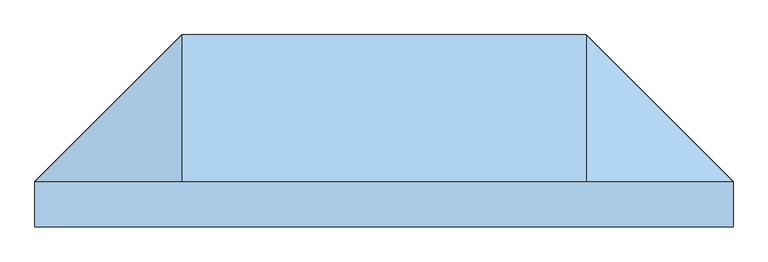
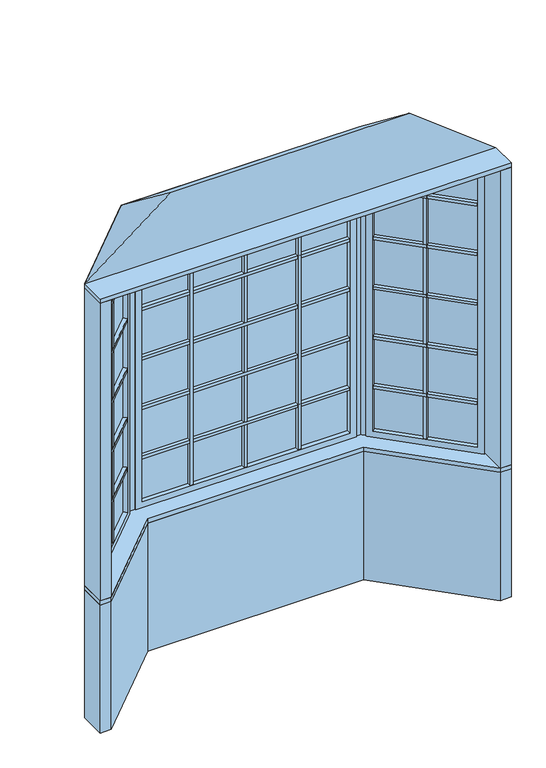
"""IFC4 building model written with IfcOpenShell, lengths in millimetres: window geometry, Pollard_Windows_Tudor Casement Bows and Bays : AML-BAY 45 AFR0618-12-600_GC."""

import ifcopenshell
import ifcopenshell.guid

model = None  # the IFC model being written
_history = None  # IfcOwnerHistory: only IFC2X3 demands one
_inside = {}  # id of a spatial element -> (the spatial element, [elements in it])
_under = {}  # id of a project, library or spatial element -> (it, [spatial elements below it])
_declared = {}  # id of a project -> (the project, [libraries it declares])
_typed = {}  # id of a type object -> (the type object, [elements of that type])
_made_of = {}  # id of a material, layer set ... -> (it, [elements and type objects made of it])


def new_model(schema):
    """Start an empty IFC model of exactly this schema.

    Asked for "IFC4X3", IfcOpenShell would pick the latest addendum, in which some entities
    have other attributes; the version numbers below select the first issue.
    IFC2X3 requires an IfcOwnerHistory on every rooted entity: one is made here for all.
    """
    global model, _history
    if schema == "IFC4X3":
        model = ifcopenshell.file(schema_version=(4, 3, 0, 0))
    else:
        model = ifcopenshell.file(schema=schema)
    _inside.clear()
    _under.clear()
    _declared.clear()
    _typed.clear()
    _made_of.clear()
    _history = None
    if model.schema == "IFC2X3":
        org = make("IfcOrganization", Name="unknown")
        user = make(
            "IfcPersonAndOrganization",
            ThePerson=make("IfcPerson", FamilyName="unknown"),
            TheOrganization=org,
        )
        app = make(
            "IfcApplication",
            ApplicationDeveloper=org,
            Version="unknown",
            ApplicationFullName="unknown",
            ApplicationIdentifier="unknown",
        )
        _history = make(
            "IfcOwnerHistory",
            OwningUser=user,
            OwningApplication=app,
            ChangeAction="ADDED",
            CreationDate=0,
        )
    return model


def make(cls, **values):
    """One entity of the class cls with the attributes given. An attribute that is None is left unset."""
    return model.create_entity(
        cls, **{name: value for name, value in values.items() if value is not None}
    )


def rooted(cls, **values):
    """An entity with a GlobalId (a new one), such as an element, a storey or a relation."""
    return make(cls, GlobalId=ifcopenshell.guid.new(), OwnerHistory=_history, **values)


def si_unit(unit_type, name, prefix=None):
    """IfcSIUnit, for example si_unit("LENGTHUNIT", "METRE", prefix="MILLI")."""
    return make("IfcSIUnit", UnitType=unit_type, Prefix=prefix, Name=name)


def assignment(units):
    """IfcUnitAssignment: the units of a project."""
    return None if units is None else make("IfcUnitAssignment", Units=units)


def point(xyz):
    """IfcCartesianPoint."""
    return None if xyz is None else make("IfcCartesianPoint", Coordinates=xyz)


def direction(xyz):
    """IfcDirection."""
    return None if xyz is None else make("IfcDirection", DirectionRatios=xyz)


def frame(location, z_axis=None, x_axis=None):
    """IfcAxis2Placement3D, a coordinate frame: its origin and axes. An axis left out is left unset."""
    return make(
        "IfcAxis2Placement3D",
        Location=point(location),
        Axis=direction(z_axis),
        RefDirection=direction(x_axis),
    )


def origin():
    """The frame at (0, 0, 0) with its axes left unset."""
    return frame((0.0, 0.0, 0.0))


def origin_with_axes():
    """The frame at (0, 0, 0) with the z axis (0, 0, 1) and the x axis (1, 0, 0) written out."""
    return frame((0.0, 0.0, 0.0), z_axis=(0.0, 0.0, 1.0), x_axis=(1.0, 0.0, 0.0))


def place(relative_to, where):
    """IfcLocalPlacement: puts the frame where relative to a parent placement (None: the world)."""
    return make(
        "IfcLocalPlacement", PlacementRelTo=relative_to, RelativePlacement=where
    )


def context(
    kind, dimensions, precision=None, world=None, true_north=None, identifier=None
):
    """IfcGeometricRepresentationContext, for example the 3D "Model" context."""
    return make(
        "IfcGeometricRepresentationContext",
        ContextIdentifier=identifier,
        ContextType=kind,
        CoordinateSpaceDimension=dimensions,
        Precision=precision,
        WorldCoordinateSystem=world,
        TrueNorth=true_north,
    )


def project(units=None, contexts=None):
    """IfcProject with its units and contexts."""
    return rooted(
        "IfcProject",
        Name="project",
        RepresentationContexts=contexts,
        UnitsInContext=assignment(units),
    )


def spatial(cls, under=None, at=None, **own):
    """A site, building, storey or space (cls), placed at a placement, below another one or the project."""
    s = rooted(cls, ObjectPlacement=at, **own)
    if under is not None:
        _under.setdefault(under.id(), (under, []))[1].append(s)
    return s


def polyline(points):
    """IfcPolyline through the points."""
    return make("IfcPolyline", Points=[point(p) for p in points])


def outline(outer, holes=None, kind="AREA"):
    """IfcArbitraryClosedProfileDef: a profile drawn as a closed curve; with holes, ...WithVoids."""
    if holes is None:
        return make("IfcArbitraryClosedProfileDef", ProfileType=kind, OuterCurve=outer)
    return make(
        "IfcArbitraryProfileDefWithVoids",
        ProfileType=kind,
        OuterCurve=outer,
        InnerCurves=holes,
    )


def extrude(swept, where, along, depth):
    """IfcExtrudedAreaSolid: the profile swept, set in the frame where, extruded along a direction by depth."""
    return make(
        "IfcExtrudedAreaSolid",
        SweptArea=swept,
        Position=where,
        ExtrudedDirection=direction(along),
        Depth=depth,
    )


def faces_of(points, faces, orient=None, outer=None):
    """IfcFace entities. A face is a list of loops; a loop is a list of indices into points, from 0.

    orient and outer hold one flag for each loop. By default every Orientation is true, the
    first loop of a face is its IfcFaceOuterBound and the others are IfcFaceBound.
    """
    made = []
    for i, loops in enumerate(faces):
        bounds = []
        for j, loop in enumerate(loops):
            is_outer = j == 0 if outer is None else outer[i][j]
            bounds.append(
                make(
                    "IfcFaceOuterBound" if is_outer else "IfcFaceBound",
                    Bound=make("IfcPolyLoop", Polygon=[points[k] for k in loop]),
                    Orientation=True if orient is None else orient[i][j],
                )
            )
        made.append(make("IfcFace", Bounds=bounds))
    return made


def faceted_brep(points, faces, orient=None, outer=None, voids=None):
    """IfcFacetedBrep: a solid bounded by flat faces; with voids (closed shells), ...WithVoids."""
    shared = [point(p) for p in points]
    hull = make("IfcClosedShell", CfsFaces=faces_of(shared, faces, orient, outer))
    if voids is None:
        return make("IfcFacetedBrep", Outer=hull)
    return make(
        "IfcFacetedBrepWithVoids",
        Outer=hull,
        Voids=[
            make(cls, CfsFaces=faces_of(shared, fs, o, b)) for cls, fs, o, b in voids
        ],
    )


def shape(context_of_items, identifier, shape_type, items):
    """IfcShapeRepresentation: the items that make up one representation, for example the "Body"."""
    return make(
        "IfcShapeRepresentation",
        ContextOfItems=context_of_items,
        RepresentationIdentifier=identifier,
        RepresentationType=shape_type,
        Items=items,
    )


def source(mapping_origin, context_of_items, identifier, shape_type, items):
    """IfcRepresentationMap: a shape defined once, which mapped items show again and again."""
    return make(
        "IfcRepresentationMap",
        MappingOrigin=mapping_origin,
        MappedRepresentation=shape(context_of_items, identifier, shape_type, items),
    )


def transform(
    local_origin,
    x_axis=None,
    y_axis=None,
    z_axis=None,
    scale=None,
    scale2=None,
    scale3=None,
    uniform=True,
):
    """IfcCartesianTransformationOperator3D, or its non-uniform kind. x_axis, y_axis, z_axis: its Axis1, 2, 3."""
    if uniform:
        return make(
            "IfcCartesianTransformationOperator3D",
            Axis1=direction(x_axis),
            Axis2=direction(y_axis),
            LocalOrigin=point(local_origin),
            Scale=scale,
            Axis3=direction(z_axis),
        )
    return make(
        "IfcCartesianTransformationOperator3DnonUniform",
        Axis1=direction(x_axis),
        Axis2=direction(y_axis),
        LocalOrigin=point(local_origin),
        Scale=scale,
        Axis3=direction(z_axis),
        Scale2=scale2,
        Scale3=scale3,
    )


def mapped(mapping_source, mapping_target):
    """IfcMappedItem: shows the shape of a source again, moved by a transform."""
    return make(
        "IfcMappedItem", MappingSource=mapping_source, MappingTarget=mapping_target
    )


def made_of(thing, what):
    """Note that an element or type object is made of a material, layer set ...; save() writes the relation."""
    if what is not None:
        _made_of.setdefault(what.id(), (what, []))[1].append(thing)
    return thing


def element(
    cls,
    number,
    at=None,
    inside=None,
    cuts=None,
    type_object=None,
    material=None,
    context=None,
    identifier="Body",
    shape_type=None,
    held_by="IfcProductDefinitionShape",
    body=None,
    shapes=None,
    **own,
):
    """One element of the class cls, such as IfcWall. Its Tag is "e" and its number.

    at: its placement. inside: the storey or other place that contains it. cuts: it is an
    opening in that element (IfcRelVoidsElement). A single representation is given by context,
    identifier, shape_type and body (its items); several are given by shapes. held_by: the class
    of the entity that holds the representations. save() writes the other relations.
    """
    e = rooted(cls, Tag="e%d" % number, ObjectPlacement=at, **own)
    if body is not None:
        shapes = [shape(context, identifier, shape_type, body)]
    if shapes is not None:
        e.Representation = make(held_by, Representations=shapes)
    if inside is not None:
        _inside.setdefault(inside.id(), (inside, []))[1].append(e)
    if cuts is not None:
        rooted(
            "IfcRelVoidsElement", RelatingBuildingElement=cuts, RelatedOpeningElement=e
        )
    if type_object is not None:
        _typed.setdefault(type_object.id(), (type_object, []))[1].append(e)
    return made_of(e, material)


def aggregate(whole, parts):
    """IfcRelAggregates: a whole, such as a stair, and the parts it consists of."""
    return rooted("IfcRelAggregates", RelatingObject=whole, RelatedObjects=parts)


def save(model, path):
    """Write the relations noted so far, then the file.

    IfcRelAggregates (storeys below a building ...), IfcRelContainedInSpatialStructure (elements
    in a storey), IfcRelDefinesByType, IfcRelAssociatesMaterial and IfcRelDeclares: one each for
    every whole, place, type object, material and project.
    """
    for whole, parts in _under.values():
        aggregate(whole, parts)
    for where, things in _inside.values():
        rooted(
            "IfcRelContainedInSpatialStructure",
            RelatedElements=things,
            RelatingStructure=where,
        )
    for kind, things in _typed.values():
        rooted("IfcRelDefinesByType", RelatedObjects=things, RelatingType=kind)
    for what, things in _made_of.values():
        rooted("IfcRelAssociatesMaterial", RelatedObjects=things, RelatingMaterial=what)
    for by, libraries in _declared.values():
        rooted("IfcRelDeclares", RelatingContext=by, RelatedDefinitions=libraries)
    model.write(path)


def window_76903604(model_context):
    return source(origin(), model_context, "Body", "SolidModel", [
        extrude(outline(polyline([(739.5114193, 506.9608753), (1117.1725202, 129.2997743), (1101.616171, 113.7434252), (723.9550701, 491.4045261), (739.5114193, 506.9608753)])), frame((0.0, 0.0, 1690.998), z_axis=(0.0, 0.0, 1.0), x_axis=(1.0, 0.0, 0.0)), (0.0, 0.0, 1.0), 18.0),
        extrude(outline(polyline([(720.3629677, 487.8124236), (1098.0240686, 110.1513227), (1082.4677194, 94.5949735), (704.8066185, 472.2560744), (720.3629677, 487.8124236)])), frame((0.0, 0.0, 1690.998), z_axis=(0.0, 0.0, 1.0), x_axis=(1.0, 0.0, 0.0)), (0.0, 0.0, 1.0), 18.0),
        extrude(outline(polyline([(739.5114193, 506.9608753), (1117.1725202, 129.2997743), (1101.616171, 113.7434252), (723.9550701, 491.4045261), (739.5114193, 506.9608753)])), frame((0.0, 0.0, 1090.998), z_axis=(0.0, 0.0, 1.0), x_axis=(1.0, 0.0, 0.0)), (0.0, 0.0, 1.0), 18.0),
        extrude(outline(polyline([(720.3629677, 487.8124236), (1098.0240686, 110.1513227), (1082.4677194, 94.5949735), (704.8066185, 472.2560744), (720.3629677, 487.8124236)])), frame((0.0, 0.0, 1090.998), z_axis=(0.0, 0.0, 1.0), x_axis=(1.0, 0.0, 0.0)), (0.0, 0.0, 1.0), 18.0),
        extrude(outline(polyline([(739.5114193, 506.9608753), (1117.1725202, 129.2997743), (1101.616171, 113.7434252), (723.9550701, 491.4045261), (739.5114193, 506.9608753)])), frame((0.0, 0.0, 1390.998), z_axis=(0.0, 0.0, 1.0), x_axis=(1.0, 0.0, 0.0)), (0.0, 0.0, 1.0), 18.0),
        extrude(outline(polyline([(720.3629677, 487.8124236), (1098.0240686, 110.1513227), (1082.4677194, 94.5949735), (704.8066185, 472.2560744), (720.3629677, 487.8124236)])), frame((0.0, 0.0, 1390.998), z_axis=(0.0, 0.0, 1.0), x_axis=(1.0, 0.0, 0.0)), (0.0, 0.0, 1.0), 18.0),
        extrude(outline(polyline([(739.5114193, 506.9608753), (1117.1725202, 129.2997743), (1101.616171, 113.7434252), (723.9550701, 491.4045261), (739.5114193, 506.9608753)])), frame((0.0, 0.0, 1990.998), z_axis=(0.0, 0.0, 1.0), x_axis=(1.0, 0.0, 0.0)), (0.0, 0.0, 1.0), 18.0),
        extrude(outline(polyline([(720.3629677, 487.8124236), (1098.0240686, 110.1513227), (1082.4677194, 94.5949735), (704.8066185, 472.2560744), (720.3629677, 487.8124236)])), frame((0.0, 0.0, 1990.998), z_axis=(0.0, 0.0, 1.0), x_axis=(1.0, 0.0, 0.0)), (0.0, 0.0, 1.0), 18.0),
        extrude(outline(polyline([(739.5114193, 506.9608753), (1117.1725202, 129.2997743), (1101.616171, 113.7434252), (723.9550701, 491.4045261), (739.5114193, 506.9608753)])), frame((0.0, 0.0, 2290.998), z_axis=(0.0, 0.0, 1.0), x_axis=(1.0, 0.0, 0.0)), (0.0, 0.0, 1.0), 18.0),
        extrude(outline(polyline([(720.3629677, 487.8124236), (1098.0240686, 110.1513227), (1082.4677194, 94.5949735), (704.8066185, 472.2560744), (720.3629677, 487.8124236)])), frame((0.0, 0.0, 2290.998), z_axis=(0.0, 0.0, 1.0), x_axis=(1.0, 0.0, 0.0)), (0.0, 0.0, 1.0), 18.0),
        extrude(outline(polyline([(919.1495816, 296.2100146), (906.4216595, 308.9379366), (921.9780087, 324.4942858), (934.7059308, 311.7663638), (919.1495816, 296.2100146)])), frame((0.0, 0.0, 835.8628), z_axis=(0.0, 0.0, 1.0), x_axis=(1.0, 0.0, 0.0)), (0.0, 0.0, 1.0), 1728.2704),
        extrude(outline(polyline([(915.5574791, 292.6179121), (900.00113, 277.0615629), (887.2732079, 289.789485), (902.8295571, 305.3458342), (915.5574791, 292.6179121)])), frame((0.0, 0.0, 835.8628), z_axis=(0.0, 0.0, 1.0), x_axis=(1.0, 0.0, 0.0)), (0.0, 0.0, 1.0), 1728.2704),
        extrude(outline(polyline([(1110.5964271, 104.763169), (1107.0043247, 101.1710666), (711.3827115, 496.7926797), (714.974814, 500.3847822), (1110.5964271, 104.763169)])), frame((0.0, 0.0, 823.1628), z_axis=(0.0, 0.0, 1.0), x_axis=(1.0, 0.0, 0.0)), (0.0, 0.0, 1.0), 1753.6704),
        faceted_brep([(1101.616171, 113.7434252, 835.8628), (1101.616171, 113.7434252, 2564.1332), (1119.5766833, 131.7039374, 2564.1332), (1119.5766833, 131.7039374, 835.8628), (1107.0043247, 101.1710666, 823.1628), (1107.0043247, 101.1710666, 2576.8332), (1110.5964271, 104.763169, 2576.8332), (1110.5964271, 104.763169, 823.1628), (1080.0635563, 92.1908105, 835.8628), (1080.0635563, 92.1908105, 2564.1332), (1098.0240686, 110.1513227, 2564.1332), (1098.0240686, 110.1513227, 835.8628), (1144.9369265, 106.3436941, 799.998), (1144.9369265, 106.3436941, 2599.998), (1105.4237996, 66.8305672, 2599.998), (1105.4237996, 66.8305672, 799.998), (723.9550701, 491.4045261, 2564.1332), (741.9155823, 509.3650383, 2564.1332), (711.3827115, 496.7926797, 2576.8332), (714.974814, 500.3847822, 2576.8332), (702.4024554, 469.8519114, 2564.1332), (720.3629677, 487.8124236, 2564.1332), (716.5553391, 534.7252816, 2599.998), (677.0422121, 495.2121547, 2599.998), (723.9550701, 491.4045261, 835.8628), (741.9155823, 509.3650383, 835.8628), (711.3827115, 496.7926797, 823.1628), (714.974814, 500.3847822, 823.1628), (702.4024554, 469.8519114, 835.8628), (720.3629677, 487.8124236, 835.8628), (716.5553391, 534.7252816, 799.998), (677.0422121, 495.2121547, 799.998)], [[[0, 1, 2, 3]], [[4, 5, 6, 7]], [[8, 9, 10, 11]], [[12, 13, 14, 15]], [[1, 16, 17, 2]], [[5, 18, 19, 6]], [[9, 20, 21, 10]], [[13, 22, 23, 14]], [[16, 24, 25, 17]], [[18, 26, 27, 19]], [[20, 28, 29, 21]], [[22, 30, 31, 23]], [[24, 0, 3, 25]], [[7, 6, 19, 27], [1, 0, 24, 16]], [[26, 4, 7, 27]], [[5, 4, 26, 18], [11, 10, 21, 29]], [[28, 8, 11, 29]], [[15, 14, 23, 31], [9, 8, 28, 20]], [[30, 12, 15, 31]], [[13, 12, 30, 22], [3, 2, 17, 25]]]),
        extrude(outline(polyline([(317.5177, 544.6806207), (299.5177, 544.6806207), (299.5177, 566.6806207), (317.5177, 566.6806207), (317.5177, 544.6806207)])), frame((0.0, 0.0, 835.8628), z_axis=(0.0, 0.0, 1.0), x_axis=(1.0, 0.0, 0.0)), (0.0, 0.0, 1.0), 1728.2704),
        extrude(outline(polyline([(317.5177, 539.6006207), (317.5177, 517.6006207), (299.5177, 517.6006207), (299.5177, 539.6006207), (317.5177, 539.6006207)])), frame((0.0, 0.0, 835.8628), z_axis=(0.0, 0.0, 1.0), x_axis=(1.0, 0.0, 0.0)), (0.0, 0.0, 1.0), 1728.2704),
        extrude(outline(polyline([(-299.5177, 544.6806207), (-317.5177, 544.6806207), (-317.5177, 566.6806207), (-299.5177, 566.6806207), (-299.5177, 544.6806207)])), frame((0.0, 0.0, 835.8628), z_axis=(0.0, 0.0, 1.0), x_axis=(1.0, 0.0, 0.0)), (0.0, 0.0, 1.0), 1728.2704),
        extrude(outline(polyline([(-299.5177, 539.6006207), (-299.5177, 517.6006207), (-317.5177, 517.6006207), (-317.5177, 539.6006207), (-299.5177, 539.6006207)])), frame((0.0, 0.0, 835.8628), z_axis=(0.0, 0.0, 1.0), x_axis=(1.0, 0.0, 0.0)), (0.0, 0.0, 1.0), 1728.2704),
        extrude(outline(polyline([(-595.3352, 566.6806207), (595.3352, 566.6806207), (595.3352, 544.6806207), (-595.3352, 544.6806207), (-595.3352, 566.6806207)])), frame((0.0, 0.0, 1090.998), z_axis=(0.0, 0.0, 1.0), x_axis=(1.0, 0.0, 0.0)), (0.0, 0.0, 1.0), 18.0),
        extrude(outline(polyline([(-595.3352, 539.6006207), (595.3352, 539.6006207), (595.3352, 517.6006207), (-595.3352, 517.6006207), (-595.3352, 539.6006207)])), frame((0.0, 0.0, 1090.998), z_axis=(0.0, 0.0, 1.0), x_axis=(1.0, 0.0, 0.0)), (0.0, 0.0, 1.0), 18.0),
        extrude(outline(polyline([(-595.3352, 566.6806207), (595.3352, 566.6806207), (595.3352, 544.6806207), (-595.3352, 544.6806207), (-595.3352, 566.6806207)])), frame((0.0, 0.0, 1390.998), z_axis=(0.0, 0.0, 1.0), x_axis=(1.0, 0.0, 0.0)), (0.0, 0.0, 1.0), 18.0),
        extrude(outline(polyline([(-595.3352, 539.6006207), (595.3352, 539.6006207), (595.3352, 517.6006207), (-595.3352, 517.6006207), (-595.3352, 539.6006207)])), frame((0.0, 0.0, 1390.998), z_axis=(0.0, 0.0, 1.0), x_axis=(1.0, 0.0, 0.0)), (0.0, 0.0, 1.0), 18.0),
        extrude(outline(polyline([(-595.3352, 566.6806207), (595.3352, 566.6806207), (595.3352, 544.6806207), (-595.3352, 544.6806207), (-595.3352, 566.6806207)])), frame((0.0, 0.0, 1690.998), z_axis=(0.0, 0.0, 1.0), x_axis=(1.0, 0.0, 0.0)), (0.0, 0.0, 1.0), 18.0),
        extrude(outline(polyline([(-595.3352, 539.6006207), (595.3352, 539.6006207), (595.3352, 517.6006207), (-595.3352, 517.6006207), (-595.3352, 539.6006207)])), frame((0.0, 0.0, 1690.998), z_axis=(0.0, 0.0, 1.0), x_axis=(1.0, 0.0, 0.0)), (0.0, 0.0, 1.0), 18.0),
        extrude(outline(polyline([(-595.3352, 566.6806207), (595.3352, 566.6806207), (595.3352, 544.6806207), (-595.3352, 544.6806207), (-595.3352, 566.6806207)])), frame((0.0, 0.0, 1990.998), z_axis=(0.0, 0.0, 1.0), x_axis=(1.0, 0.0, 0.0)), (0.0, 0.0, 1.0), 18.0),
        extrude(outline(polyline([(-595.3352, 539.6006207), (595.3352, 539.6006207), (595.3352, 517.6006207), (-595.3352, 517.6006207), (-595.3352, 539.6006207)])), frame((0.0, 0.0, 1990.998), z_axis=(0.0, 0.0, 1.0), x_axis=(1.0, 0.0, 0.0)), (0.0, 0.0, 1.0), 18.0),
        extrude(outline(polyline([(-1117.1725202, 129.2997743), (-739.5114193, 506.9608753), (-723.9550701, 491.4045261), (-1101.616171, 113.7434252), (-1117.1725202, 129.2997743)])), frame((0.0, 0.0, 1090.998), z_axis=(0.0, 0.0, 1.0), x_axis=(1.0, 0.0, 0.0)), (0.0, 0.0, 1.0), 18.0),
        extrude(outline(polyline([(-1098.0240686, 110.1513227), (-720.3629677, 487.8124236), (-704.8066185, 472.2560744), (-1082.4677194, 94.5949735), (-1098.0240686, 110.1513227)])), frame((0.0, 0.0, 1090.998), z_axis=(0.0, 0.0, 1.0), x_axis=(1.0, 0.0, 0.0)), (0.0, 0.0, 1.0), 18.0),
        extrude(outline(polyline([(-1117.1725202, 129.2997743), (-739.5114193, 506.9608753), (-723.9550701, 491.4045261), (-1101.616171, 113.7434252), (-1117.1725202, 129.2997743)])), frame((0.0, 0.0, 1390.998), z_axis=(0.0, 0.0, 1.0), x_axis=(1.0, 0.0, 0.0)), (0.0, 0.0, 1.0), 18.0),
        extrude(outline(polyline([(-1098.0240686, 110.1513227), (-720.3629677, 487.8124236), (-704.8066185, 472.2560744), (-1082.4677194, 94.5949735), (-1098.0240686, 110.1513227)])), frame((0.0, 0.0, 1390.998), z_axis=(0.0, 0.0, 1.0), x_axis=(1.0, 0.0, 0.0)), (0.0, 0.0, 1.0), 18.0),
        extrude(outline(polyline([(-1117.1725202, 129.2997743), (-739.5114193, 506.9608753), (-723.9550701, 491.4045261), (-1101.616171, 113.7434252), (-1117.1725202, 129.2997743)])), frame((0.0, 0.0, 1690.998), z_axis=(0.0, 0.0, 1.0), x_axis=(1.0, 0.0, 0.0)), (0.0, 0.0, 1.0), 18.0),
        extrude(outline(polyline([(-1098.0240686, 110.1513227), (-720.3629677, 487.8124236), (-704.8066185, 472.2560744), (-1082.4677194, 94.5949735), (-1098.0240686, 110.1513227)])), frame((0.0, 0.0, 1690.998), z_axis=(0.0, 0.0, 1.0), x_axis=(1.0, 0.0, 0.0)), (0.0, 0.0, 1.0), 18.0),
        extrude(outline(polyline([(-1117.1725202, 129.2997743), (-739.5114193, 506.9608753), (-723.9550701, 491.4045261), (-1101.616171, 113.7434252), (-1117.1725202, 129.2997743)])), frame((0.0, 0.0, 1990.998), z_axis=(0.0, 0.0, 1.0), x_axis=(1.0, 0.0, 0.0)), (0.0, 0.0, 1.0), 18.0),
        extrude(outline(polyline([(-1098.0240686, 110.1513227), (-720.3629677, 487.8124236), (-704.8066185, 472.2560744), (-1082.4677194, 94.5949735), (-1098.0240686, 110.1513227)])), frame((0.0, 0.0, 1990.998), z_axis=(0.0, 0.0, 1.0), x_axis=(1.0, 0.0, 0.0)), (0.0, 0.0, 1.0), 18.0),
        extrude(outline(polyline([(-1117.1725202, 129.2997743), (-739.5114193, 506.9608753), (-723.9550701, 491.4045261), (-1101.616171, 113.7434252), (-1117.1725202, 129.2997743)])), frame((0.0, 0.0, 2290.998), z_axis=(0.0, 0.0, 1.0), x_axis=(1.0, 0.0, 0.0)), (0.0, 0.0, 1.0), 18.0),
        extrude(outline(polyline([(-1098.0240686, 110.1513227), (-720.3629677, 487.8124236), (-704.8066185, 472.2560744), (-1082.4677194, 94.5949735), (-1098.0240686, 110.1513227)])), frame((0.0, 0.0, 2290.998), z_axis=(0.0, 0.0, 1.0), x_axis=(1.0, 0.0, 0.0)), (0.0, 0.0, 1.0), 18.0),
        extrude(outline(polyline([(-595.3352, 566.6806207), (595.3352, 566.6806207), (595.3352, 544.6806207), (-595.3352, 544.6806207), (-595.3352, 566.6806207)])), frame((0.0, 0.0, 2290.998), z_axis=(0.0, 0.0, 1.0), x_axis=(1.0, 0.0, 0.0)), (0.0, 0.0, 1.0), 18.0),
        extrude(outline(polyline([(-595.3352, 539.6006207), (595.3352, 539.6006207), (595.3352, 517.6006207), (-595.3352, 517.6006207), (-595.3352, 539.6006207)])), frame((0.0, 0.0, 2290.998), z_axis=(0.0, 0.0, 1.0), x_axis=(1.0, 0.0, 0.0)), (0.0, 0.0, 1.0), 18.0),
        extrude(outline(polyline([(-906.4216595, 308.9379366), (-919.1495816, 296.2100146), (-934.7059308, 311.7663638), (-921.9780087, 324.4942858), (-906.4216595, 308.9379366)])), frame((0.0, 0.0, 835.8628), z_axis=(0.0, 0.0, 1.0), x_axis=(1.0, 0.0, 0.0)), (0.0, 0.0, 1.0), 1728.2704),
        extrude(outline(polyline([(-902.8295571, 305.3458342), (-887.2732079, 289.789485), (-900.00113, 277.0615629), (-915.5574791, 292.6179121), (-902.8295571, 305.3458342)])), frame((0.0, 0.0, 835.8628), z_axis=(0.0, 0.0, 1.0), x_axis=(1.0, 0.0, 0.0)), (0.0, 0.0, 1.0), 1728.2704),
        extrude(outline(polyline([(9.0, 544.6806207), (-9.0, 544.6806207), (-9.0, 566.6806207), (9.0, 566.6806207), (9.0, 544.6806207)])), frame((0.0, 0.0, 835.8628), z_axis=(0.0, 0.0, 1.0), x_axis=(1.0, 0.0, 0.0)), (0.0, 0.0, 1.0), 1728.2704),
        extrude(outline(polyline([(9.0, 539.6006207), (9.0, 517.6006207), (-9.0, 517.6006207), (-9.0, 539.6006207), (9.0, 539.6006207)])), frame((0.0, 0.0, 835.8628), z_axis=(0.0, 0.0, 1.0), x_axis=(1.0, 0.0, 0.0)), (0.0, 0.0, 1.0), 1728.2704),
        extrude(outline(polyline([(-714.974814, 500.3847822), (-711.3827115, 496.7926797), (-1107.0043247, 101.1710666), (-1110.5964271, 104.763169), (-714.974814, 500.3847822)])), frame((0.0, 0.0, 823.1628), z_axis=(0.0, 0.0, 1.0), x_axis=(1.0, 0.0, 0.0)), (0.0, 0.0, 1.0), 1753.6704),
        faceted_brep([(-720.3629677, 487.8124236, 2564.1332), (-720.3629677, 487.8124236, 835.8628), (-702.4024554, 469.8519114, 835.8628), (-702.4024554, 469.8519114, 2564.1332), (-714.974814, 500.3847822, 2576.8332), (-714.974814, 500.3847822, 823.1628), (-711.3827115, 496.7926797, 823.1628), (-711.3827115, 496.7926797, 2576.8332), (-741.9155823, 509.3650383, 2564.1332), (-741.9155823, 509.3650383, 835.8628), (-723.9550701, 491.4045261, 835.8628), (-723.9550701, 491.4045261, 2564.1332), (-677.0422121, 495.2121547, 2599.998), (-677.0422121, 495.2121547, 799.998), (-716.5553391, 534.7252816, 799.998), (-716.5553391, 534.7252816, 2599.998), (-1098.0240686, 110.1513227, 835.8628), (-1080.0635563, 92.1908105, 835.8628), (-1110.5964271, 104.763169, 823.1628), (-1107.0043247, 101.1710666, 823.1628), (-1119.5766833, 131.7039374, 835.8628), (-1101.616171, 113.7434252, 835.8628), (-1105.4237996, 66.8305672, 799.998), (-1144.9369265, 106.3436941, 799.998), (-1098.0240686, 110.1513227, 2564.1332), (-1080.0635563, 92.1908105, 2564.1332), (-1110.5964271, 104.763169, 2576.8332), (-1107.0043247, 101.1710666, 2576.8332), (-1119.5766833, 131.7039374, 2564.1332), (-1101.616171, 113.7434252, 2564.1332), (-1105.4237996, 66.8305672, 2599.998), (-1144.9369265, 106.3436941, 2599.998)], [[[0, 1, 2, 3]], [[4, 5, 6, 7]], [[8, 9, 10, 11]], [[12, 13, 14, 15]], [[1, 16, 17, 2]], [[5, 18, 19, 6]], [[9, 20, 21, 10]], [[13, 22, 23, 14]], [[16, 24, 25, 17]], [[18, 26, 27, 19]], [[20, 28, 29, 21]], [[22, 30, 31, 23]], [[13, 12, 30, 22], [3, 2, 17, 25]], [[24, 0, 3, 25]], [[7, 6, 19, 27], [1, 0, 24, 16]], [[26, 4, 7, 27]], [[5, 4, 26, 18], [11, 10, 21, 29]], [[28, 8, 11, 29]], [[15, 14, 23, 31], [9, 8, 28, 20]], [[30, 12, 15, 31]]]),
        extrude(outline(polyline([(608.0352, 544.6806207), (608.0352, 539.6006207), (-608.0352, 539.6006207), (-608.0352, 544.6806207), (608.0352, 544.6806207)])), frame((0.0, 0.0, 823.1628), z_axis=(0.0, 0.0, 1.0), x_axis=(1.0, 0.0, 0.0)), (0.0, 0.0, 1.0), 1753.6704),
        faceted_brep([(595.3352, 544.6806207, 835.8628), (595.3352, 544.6806207, 2564.1332), (595.3352, 570.0806207, 2564.1332), (595.3352, 570.0806207, 835.8628), (608.0352, 539.6006207, 823.1628), (608.0352, 539.6006207, 2576.8332), (608.0352, 544.6806207, 2576.8332), (608.0352, 544.6806207, 823.1628), (595.3352, 514.2006207, 835.8628), (595.3352, 514.2006207, 2564.1332), (595.3352, 539.6006207, 2564.1332), (595.3352, 539.6006207, 835.8628), (631.2, 570.0806207, 799.998), (631.2, 570.0806207, 2599.998), (631.2, 514.2006207, 2599.998), (631.2, 514.2006207, 799.998), (-595.3352, 544.6806207, 2564.1332), (-595.3352, 570.0806207, 2564.1332), (-608.0352, 539.6006207, 2576.8332), (-608.0352, 544.6806207, 2576.8332), (-595.3352, 514.2006207, 2564.1332), (-595.3352, 539.6006207, 2564.1332), (-631.2, 570.0806207, 2599.998), (-631.2, 514.2006207, 2599.998), (-595.3352, 544.6806207, 835.8628), (-595.3352, 570.0806207, 835.8628), (-608.0352, 539.6006207, 823.1628), (-608.0352, 544.6806207, 823.1628), (-595.3352, 514.2006207, 835.8628), (-595.3352, 539.6006207, 835.8628), (-631.2, 570.0806207, 799.998), (-631.2, 514.2006207, 799.998)], [[[0, 1, 2, 3]], [[4, 5, 6, 7]], [[8, 9, 10, 11]], [[12, 13, 14, 15]], [[1, 16, 17, 2]], [[5, 18, 19, 6]], [[9, 20, 21, 10]], [[13, 22, 23, 14]], [[16, 24, 25, 17]], [[18, 26, 27, 19]], [[20, 28, 29, 21]], [[22, 30, 31, 23]], [[13, 12, 30, 22], [3, 2, 17, 25]], [[24, 0, 3, 25]], [[7, 6, 19, 27], [1, 0, 24, 16]], [[26, 4, 7, 27]], [[5, 4, 26, 18], [11, 10, 21, 29]], [[28, 8, 11, 29]], [[15, 14, 23, 31], [9, 8, 28, 20]], [[30, 12, 15, 31]]]),
        faceted_brep([(1176.5, 74.7806207, 2625.398), (-1176.5, 74.7806207, 2625.398), (-681.2, 570.0806207, 2625.398), (681.2, 570.0806207, 2625.398), (-681.2, 74.7806207, 3006.398), (681.2, 74.7806207, 3006.398)], [[[0, 1, 2, 3]], [[1, 4, 2]], [[2, 4, 5, 3]], [[3, 5, 0]], [[0, 5, 4, 1]]]),
        extrude(outline(polyline([(-1176.5, -77.6193793), (-1176.5, 74.7806207), (-681.2, 570.0806207), (681.2, 570.0806207), (1176.5, 74.7806207), (1176.5, -77.6193793), (-1176.5, -77.6193793)])), frame((0.0, 0.0, 2599.998), z_axis=(0.0, 0.0, 1.0), x_axis=(1.0, 0.0, 0.0)), (0.0, 0.0, 1.0), 25.4),
        extrude(outline(polyline([(-1176.5, 74.7806207), (-1144.9369265, 106.3436941), (-1113.3738531, 74.7806207), (-1113.3738531, -77.6193793), (-1176.5, -77.6193793), (-1176.5, 74.7806207)])), frame((0.0, 0.0, 799.998), z_axis=(0.0, 0.0, 1.0), x_axis=(1.0, 0.0, 0.0)), (0.0, 0.0, 1.0), 1800.0),
        extrude(outline(polyline([(1176.5, -77.6193793), (1113.3738531, -77.6193793), (1113.3738531, 74.7806207), (1144.9369265, 106.3436941), (1176.5, 74.7806207), (1176.5, -77.6193793)])), frame((0.0, 0.0, 799.998), z_axis=(0.0, 0.0, 1.0), x_axis=(1.0, 0.0, 0.0)), (0.0, 0.0, 1.0), 1800.0),
        extrude(outline(polyline([(681.2, 570.0806207), (716.5553391, 534.7252816), (681.2, 499.3699425), (660.4893219, 520.0806207), (631.2, 520.0806207), (631.2, 570.0806207), (681.2, 570.0806207)])), frame((0.0, 0.0, 799.998), z_axis=(0.0, 0.0, 1.0), x_axis=(1.0, 0.0, 0.0)), (0.0, 0.0, 1.0), 1800.0),
        extrude(outline(polyline([(-681.2, 570.0806207), (-631.2, 570.0806207), (-631.2, 520.0806207), (-660.4893219, 520.0806207), (-681.2, 499.3699425), (-716.5553391, 534.7252816), (-681.2, 570.0806207)])), frame((0.0, 0.0, 799.998), z_axis=(0.0, 0.0, 1.0), x_axis=(1.0, 0.0, 0.0)), (0.0, 0.0, 1.0), 1800.0),
        extrude(outline(polyline([(-681.2, 570.0806207), (681.2, 570.0806207), (1176.5, 74.7806207), (1176.5, -77.6193793), (1113.3738531, -77.6193793), (618.0738531, 417.6806207), (-618.0738531, 417.6806207), (-1113.3738531, -77.6193793), (-1176.5, -77.6193793), (-1176.5, 74.7806207), (-681.2, 570.0806207)])), frame((0.0, 0.0, 774.598), z_axis=(0.0, 0.0, 1.0), x_axis=(1.0, 0.0, 0.0)), (0.0, 0.0, 1.0), 25.4),
        extrude(outline(polyline([(-1176.5, 74.7806207), (-681.2, 570.0806207), (681.2, 570.0806207), (1176.5, 74.7806207), (1176.5, -77.6193793), (1113.3738531, -77.6193793), (618.0738531, 417.6806207), (-618.0738531, 417.6806207), (-1113.3738531, -77.6193793), (-1176.5, -77.6193793), (-1176.5, 74.7806207)])), origin_with_axes(), (0.0, 0.0, 1.0), 774.598),
    ])


if __name__ == "__main__":
    model = new_model("IFC4")
    model_context = context("Model", 3, world=origin())
    ifc_project = project(units=[si_unit("LENGTHUNIT", "METRE", prefix="MILLI")], contexts=[model_context])
    site = spatial("IfcSite", under=ifc_project)
    building = spatial("IfcBuilding", under=site)
    placement = place(None, origin())
    window_shape = window_76903604(model_context)
    element("IfcWindow", 1, ObjectType="Pollard_Windows_Tudor Casement Bows and Bays : AML-BAY 45 AFR0618-12-600_GC", at=placement, inside=building, context=model_context, shape_type="MappedRepresentation", body=[
        mapped(window_shape, transform((0.0, 0.0, 0.0), x_axis=(1.0, 0.0, 0.0), y_axis=(0.0, 1.0, 0.0), z_axis=(0.0, 0.0, 1.0))),
    ])
    save(model, "model.ifc")
